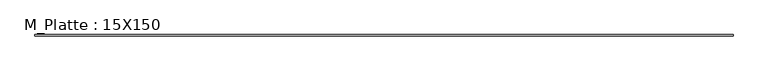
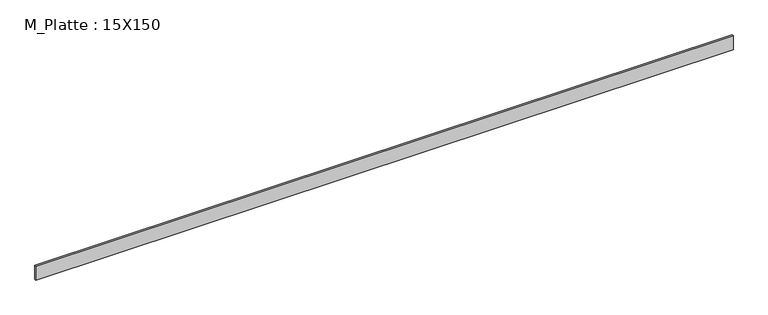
"""IFC4 building model written with IfcOpenShell, lengths in millimetres: beam geometry, M_Platte : 15X150."""

from ifc_helpers import new_model, si_unit, frame, origin, place, context, project, spatial, polyline, outline, extrude, source, transform, mapped, element, save


def m_platte_15x150_45e7b507(model_context):
    return source(origin(), model_context, "Body", "SweptSolid", [
        extrude(outline(polyline([(3502.0685693, 7.5), (3502.0685693, -7.5), (-3647.3656023, -7.5), (-3647.3656023, 7.5), (3502.0685693, 7.5)])), frame((0.0, 0.0, -75.0), z_axis=(0.0, 0.0, 1.0), x_axis=(1.0, 0.0, 0.0)), (0.0, 0.0, 1.0), 150.0),
    ])


if __name__ == "__main__":
    model = new_model("IFC4")
    model_context = context("Model", 3, world=origin())
    ifc_project = project(units=[si_unit("LENGTHUNIT", "METRE", prefix="MILLI")], contexts=[model_context])
    site = spatial("IfcSite", under=ifc_project)
    building = spatial("IfcBuilding", under=site)
    placement = place(None, origin())
    m_platte_15x150_shape = m_platte_15x150_45e7b507(model_context)
    element("IfcBeam", 1, ObjectType="M_Platte : 15X150", at=placement, inside=building, context=model_context, shape_type="MappedRepresentation", body=[
        mapped(m_platte_15x150_shape, transform((0.0, 0.0, 0.0), x_axis=(1.0, 0.0, 0.0), y_axis=(0.0, 1.0, 0.0), z_axis=(0.0, 0.0, 1.0))),
    ])
    save(model, "model.ifc")
